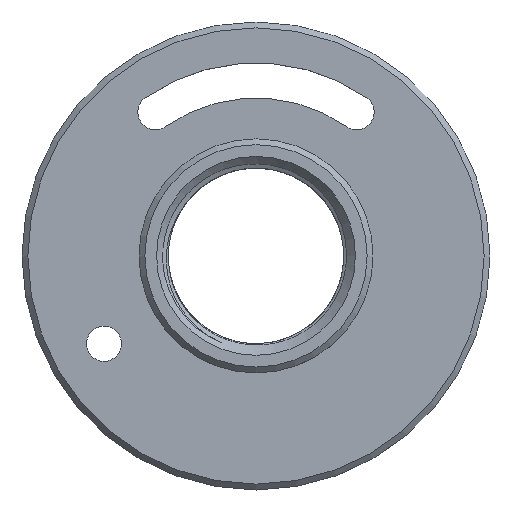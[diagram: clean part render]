
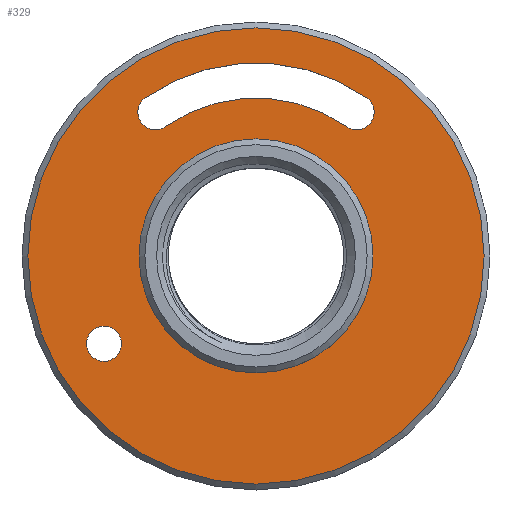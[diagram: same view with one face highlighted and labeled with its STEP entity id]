
A CAD part, top view. The second image highlights one B-rep face of the part: STEP entity #329.
In plain terms, the highlighted planar face has unit normal (0, 0, 1).
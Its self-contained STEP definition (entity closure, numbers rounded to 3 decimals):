
#103=ORIENTED_EDGE('',*,*,#173,.T.);
#104=ORIENTED_EDGE('',*,*,#174,.T.);
#105=ORIENTED_EDGE('',*,*,#175,.T.);
#106=ORIENTED_EDGE('',*,*,#176,.T.);
#107=ORIENTED_EDGE('',*,*,#177,.T.);
#108=ORIENTED_EDGE('',*,*,#178,.T.);
#109=ORIENTED_EDGE('',*,*,#179,.T.);
#173=EDGE_CURVE('',#208,#208,#235,.T.);
#174=EDGE_CURVE('',#209,#209,#236,.T.);
#175=EDGE_CURVE('',#210,#211,#237,.T.);
#176=EDGE_CURVE('',#211,#212,#238,.T.);
#177=EDGE_CURVE('',#212,#213,#239,.T.);
#178=EDGE_CURVE('',#213,#210,#240,.T.);
#179=EDGE_CURVE('',#214,#214,#241,.T.);
#208=VERTEX_POINT('',#522);
#209=VERTEX_POINT('',#524);
#210=VERTEX_POINT('',#526);
#211=VERTEX_POINT('',#527);
#212=VERTEX_POINT('',#529);
#213=VERTEX_POINT('',#531);
#214=VERTEX_POINT('',#534);
#235=CIRCLE('',#362,39.);
#236=CIRCLE('',#363,3.);
#237=CIRCLE('',#364,3.);
#238=CIRCLE('',#365,27.);
#239=CIRCLE('',#366,3.);
#240=CIRCLE('',#367,33.);
#241=CIRCLE('',#368,20.);
#258=EDGE_LOOP('',(#103));
#259=EDGE_LOOP('',(#104));
#260=EDGE_LOOP('',(#105,#106,#107,#108));
#261=EDGE_LOOP('',(#109));
#292=FACE_BOUND('',#258,.T.);
#293=FACE_BOUND('',#259,.T.);
#294=FACE_BOUND('',#260,.T.);
#295=FACE_BOUND('',#261,.T.);
#326=PLANE('',#361);
#329=ADVANCED_FACE('',(#292,#293,#294,#295),#326,.T.);
#361=AXIS2_PLACEMENT_3D('',#520,#419,#420);
#362=AXIS2_PLACEMENT_3D('',#521,#421,#422);
#363=AXIS2_PLACEMENT_3D('',#523,#423,#424);
#364=AXIS2_PLACEMENT_3D('',#525,#425,#426);
#365=AXIS2_PLACEMENT_3D('',#528,#427,#428);
#366=AXIS2_PLACEMENT_3D('',#530,#429,#430);
#367=AXIS2_PLACEMENT_3D('',#532,#431,#432);
#368=AXIS2_PLACEMENT_3D('',#533,#433,#434);
#419=DIRECTION('',(0.,0.,1.));
#420=DIRECTION('',(1.,0.,0.));
#421=DIRECTION('',(0.,0.,1.));
#422=DIRECTION('',(1.,0.,0.));
#423=DIRECTION('',(0.,0.,-1.));
#424=DIRECTION('',(-1.,0.,0.));
#425=DIRECTION('',(0.,0.,-1.));
#426=DIRECTION('',(-1.,0.,0.));
#427=DIRECTION('',(0.,0.,1.));
#428=DIRECTION('',(1.,0.,0.));
#429=DIRECTION('',(0.,0.,-1.));
#430=DIRECTION('',(1.,0.,0.));
#431=DIRECTION('',(0.,0.,-1.));
#432=DIRECTION('',(1.,0.,0.));
#433=DIRECTION('',(0.,0.,-1.));
#434=DIRECTION('',(-1.,0.,0.));
#520=CARTESIAN_POINT('',(40.,0.,5.));
#521=CARTESIAN_POINT('',(0.,0.,5.));
#522=CARTESIAN_POINT('',(39.,0.,5.));
#523=CARTESIAN_POINT('',(-25.981,-15.,5.));
#524=CARTESIAN_POINT('',(-28.981,-15.,5.));
#525=CARTESIAN_POINT('',(17.207,24.575,5.));
#526=CARTESIAN_POINT('',(18.928,27.032,5.));
#527=CARTESIAN_POINT('',(15.487,22.117,5.));
#528=CARTESIAN_POINT('',(0.,0.,5.));
#529=CARTESIAN_POINT('',(-15.487,22.117,5.));
#530=CARTESIAN_POINT('',(-17.207,24.575,5.));
#531=CARTESIAN_POINT('',(-18.928,27.032,5.));
#532=CARTESIAN_POINT('',(0.,0.,5.));
#533=CARTESIAN_POINT('',(0.,0.,5.));
#534=CARTESIAN_POINT('',(-20.,0.,5.));
